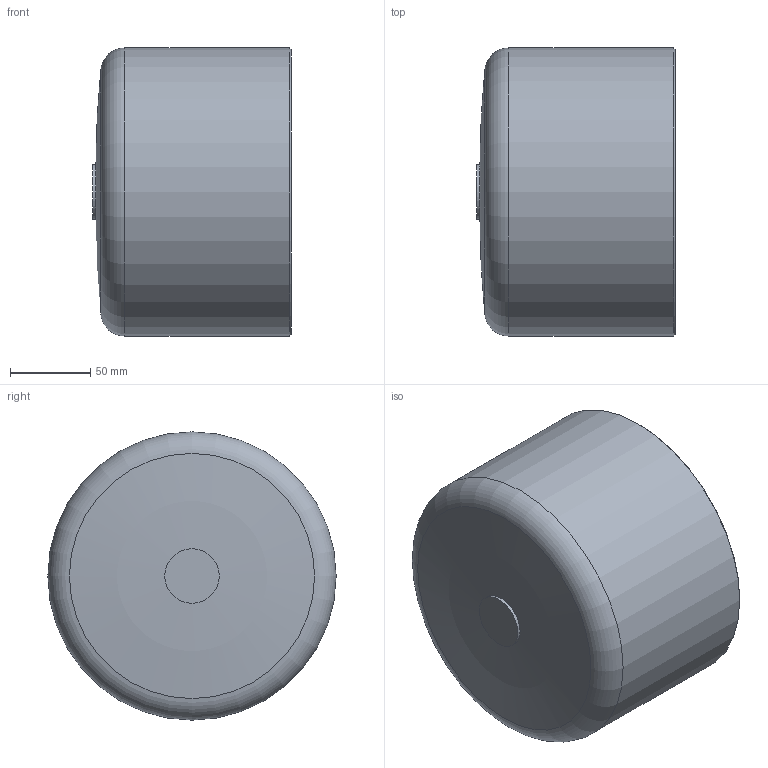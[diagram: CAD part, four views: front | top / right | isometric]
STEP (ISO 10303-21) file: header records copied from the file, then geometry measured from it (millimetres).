
FILE_DESCRIPTION(/* description */ ('Unknown'),/* implementation_level */ '2;1');
FILE_NAME(/* name */ 'CAP180C',/* time_stamp */ '2021-02-04T09:48:38+01:00',/* author */ ('Unknown'),/* organization */ ('Unknown'),/* preprocessor_version */ 'ST-DEVELOPER v16.7',/* originating_system */ 'Solid Edge',/* authorisation */ 'Unknown');
FILE_SCHEMA (('AUTOMOTIVE_DESIGN {1 0 10303 214 3 1 1}'));
Length unit declared in the file: millimetre
Products named in the file (1): CAP180C
Bounding box: 124 x 180 x 180 mm (x, y, z)
Volume: 1291585.9 mm3; surface area: 159716 mm2
Topology: 1 solids, 1 shells, 11 faces, 19 edges, 11 vertices
Faces by surface type: torus 4, plane 3, cylinder 3, cone 1
Full cylindrical faces by diameter (mm): 34 x1, 147.2 x1, 180 x1
Entity records: 244 total; most frequent: DIRECTION 44, CARTESIAN_POINT 32, AXIS2_PLACEMENT_3D 22, ORIENTED_EDGE 20, EDGE_LOOP 20, FACE_BOUND 20, ADVANCED_FACE 11, EDGE_CURVE 10
